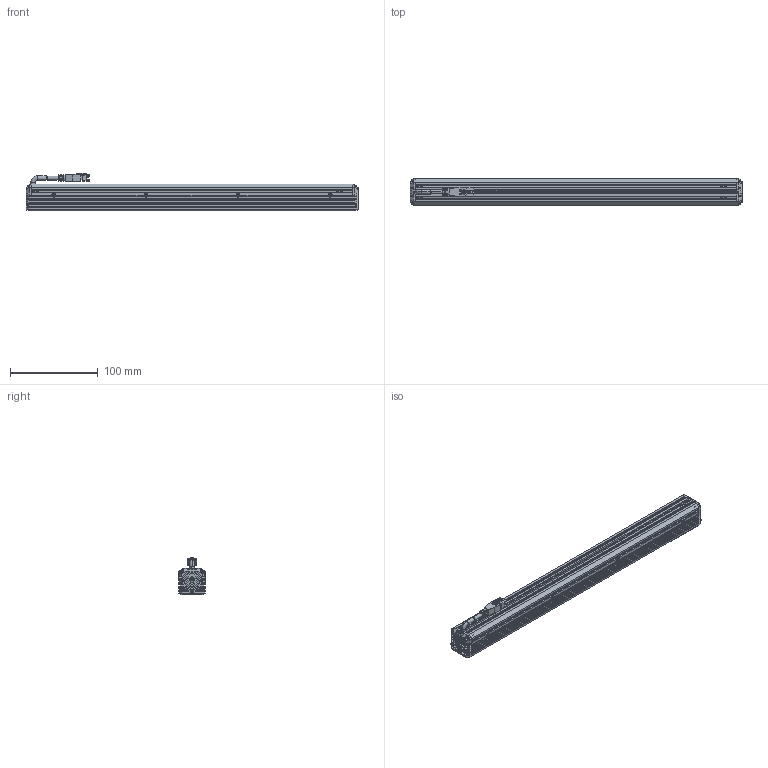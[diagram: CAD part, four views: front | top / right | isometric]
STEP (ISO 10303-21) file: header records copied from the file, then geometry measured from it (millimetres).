
FILE_DESCRIPTION((''),'2;1');
FILE_NAME('MV-LLDS-H-400-30-W-PL_ASM','2024-04-08T14:02:16',('huguozhe'),(''),'CREO PARAMETRIC BY PTC INC, 2020044','CREO PARAMETRIC BY PTC INC, 2020044','');
FILE_SCHEMA(('AUTOMOTIVE_DESIGN { 1 0 10303 214 1 1 1 1 }'));
Length unit declared in the file: millimetre
Products named in the file (15): DE-15-001262; DE-15-001261_ASM; DE-15-000498; DE-15-000497_ASM; DE-12-002271; TIP-M3X4-4_5X5-SO-ET-07061033; DE-12-002271_ASM; DE-12-001577; SC-KM2X6-BNI-GB819; XIANLAN_HEAD; CABLE_HEAD; CABLE_HEAD_ASM_ASM; 190100852; SC-PM2X6B-JMP; MV-LLDS-H-400-30-W-PL_ASM
Assembly tree (33 placements, depth 3):
  MV-LLDS-H-400-30-W-PL_ASM
    DE-15-001261_ASM
      DE-15-001262
    DE-15-000497_ASM
      DE-15-000498
    DE-12-002271_ASM  x2
      DE-12-002271
      TIP-M3X4-4_5X5-SO-ET-07061033
    DE-12-001577
    SC-KM2X6-BNI-GB819  x4
    CABLE_HEAD_ASM_ASM
      XIANLAN_HEAD
      CABLE_HEAD
    190100852  x8
    SC-PM2X6B-JMP  x8
Bounding box: 378 x 30 x 42.65 mm (x, y, z)
Volume: 261038 mm3; surface area: 144129.6 mm2
Topology: 31 solids, 67 shells, 2798 faces, 7224 edges, 4549 vertices
Faces by surface type: plane 1344, cylinder 610, bspline 472, cone 313, torus 50, sphere 8, extrusion 1
Entity records: 48110 total; most frequent: CARTESIAN_POINT 11234, ORIENTED_EDGE 6166, DIRECTION 5952, EDGE_CURVE 3115, VERTEX_POINT 1996, AXIS2_PLACEMENT_3D 1985, VECTOR 1982, LINE 1981
